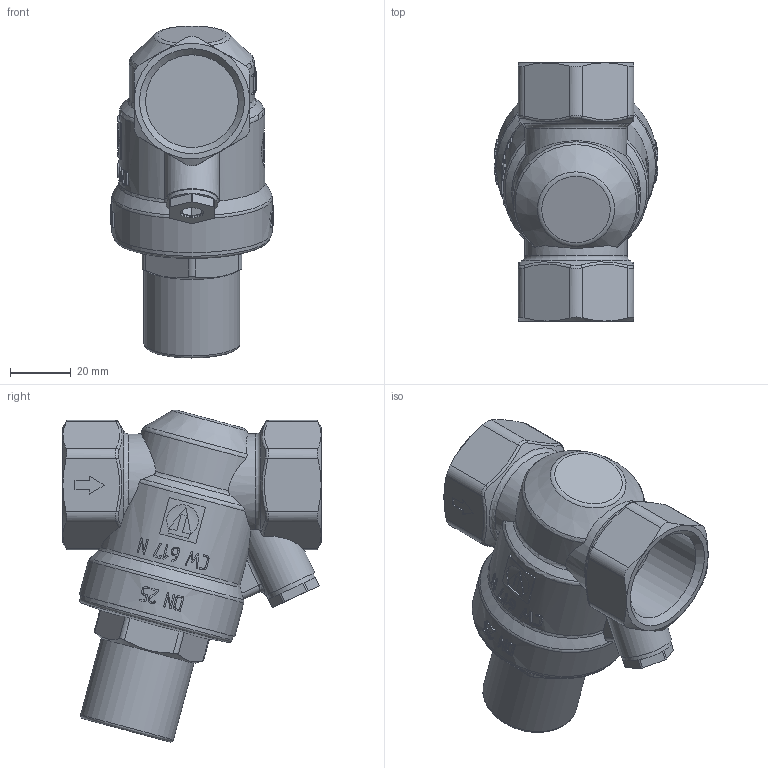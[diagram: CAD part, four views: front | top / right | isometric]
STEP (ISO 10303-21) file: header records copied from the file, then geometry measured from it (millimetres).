
FILE_DESCRIPTION(('STEP AP203'), '1');
FILE_NAME('VT.089.N.09 Ðåä. äàâ. ìåìá. ðåã. DN25 ñ óâ. ðàñõ', '2024-04-22T11:08:18', ('User'), ('Vesta'), 'C3D Converter', 'C3D Toolkit', '');
FILE_SCHEMA(('CONFIG_CONTROL_DESIGN'));
Length unit declared in the file: millimetre
Bounding box: 53.95 x 85 x 109.24 mm (x, y, z)
Volume: 170391.4 mm3; surface area: 28840.1 mm2
Topology: 1 solids, 1 shells, 654 faces, 1789 edges, 1176 vertices
Faces by surface type: plane 265, extrusion 263, cylinder 67, bspline 24, cone 21, torus 14
Full cylindrical faces by diameter (mm): 7.7 x1, 10.6 x1, 14 x1, 17 x1, 18 x1, 30.5 x2, 31.6 x1, 51.8 x1, 53 x1
Entity records: 34578 total; most frequent: CARTESIAN_POINT 19734, ORIENTED_EDGE 3538, DIRECTION 2116, EDGE_CURVE 1769, VERTEX_POINT 1176, VECTOR 1018, B_SPLINE_CURVE_WITH_KNOTS 973, LINE 755
